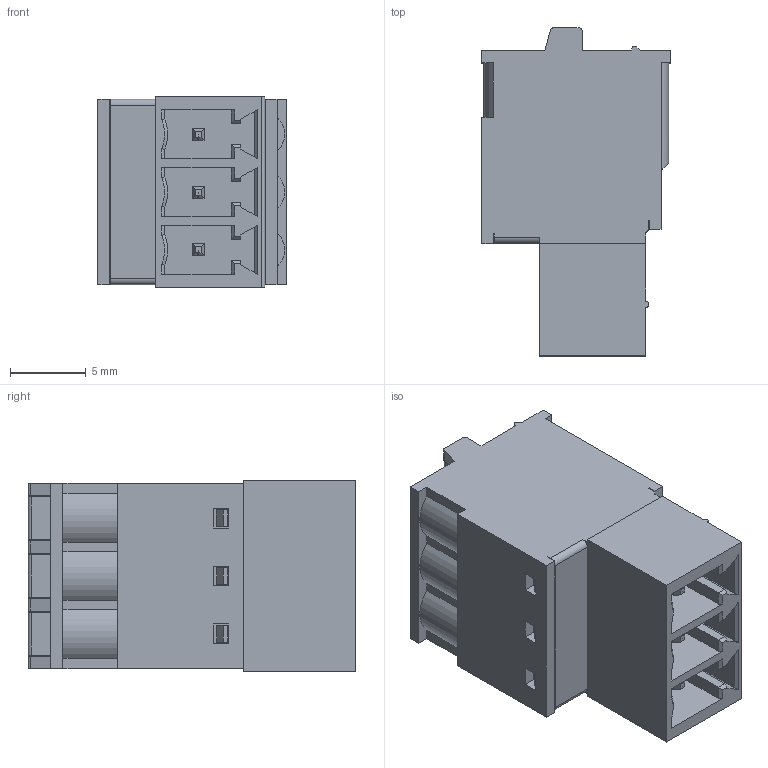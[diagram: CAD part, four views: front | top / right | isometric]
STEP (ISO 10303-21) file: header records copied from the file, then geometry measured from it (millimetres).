
FILE_DESCRIPTION((''),'2;1');
FILE_NAME('3PIN_SW0001','2019-05-29T',('zhenbing.lai'),(''),'CREO PARAMETRIC BY PTC INC, 2016260','CREO PARAMETRIC BY PTC INC, 2016260','');
FILE_SCHEMA(('CONFIG_CONTROL_DESIGN'));
Length unit declared in the file: millimetre
Products named in the file (1): 3PIN_SW0001
Bounding box: 12.4 x 21.6 x 12.63 mm (x, y, z)
Volume: 2138.4 mm3; surface area: 1921.4 mm2
Topology: 1 solids, 1 shells, 342 faces, 917 edges, 601 vertices
Faces by surface type: plane 285, cylinder 45, cone 12
Entity records: 10657 total; most frequent: CARTESIAN_POINT 2019, ORIENTED_EDGE 1834, DIRECTION 1678, EDGE_CURVE 917, VECTOR 780, LINE 780, VERTEX_POINT 601, AXIS2_PLACEMENT_3D 449
